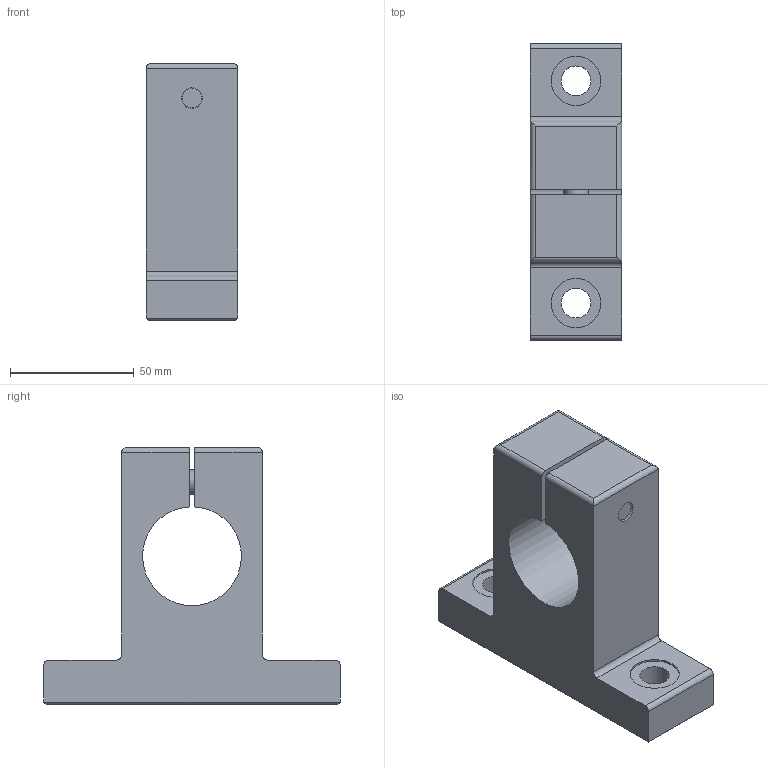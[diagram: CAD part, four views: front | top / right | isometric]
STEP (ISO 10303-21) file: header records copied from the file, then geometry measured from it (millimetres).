
FILE_DESCRIPTION((''),'2;1');
FILE_NAME('D:\製品 (図面)\カタログ用3D\シャフトブロック関連\STEP形式\SB\SB40.stp','2010-06-01T16:19:57',('Tsuchiya'),(''),'Autodesk Inventor 10','Autodesk Inventor 10','');
FILE_SCHEMA(('AUTOMOTIVE_DESIGN { 1 0 10303 214 1 1 1 1 }'));
Length unit declared in the file: millimetre
Products named in the file (1): SB40
Bounding box: 37 x 120 x 104 mm (x, y, z)
Volume: 207064.3 mm3; surface area: 37135 mm2
Topology: 1 solids, 1 shells, 52 faces, 123 edges, 79 vertices
Faces by surface type: plane 28, cylinder 17, bspline 4, cone 2, torus 1
Full cylindrical faces by diameter (mm): 10 x1, 12 x2, 16 x1, 20 x2
Entity records: 1474 total; most frequent: CARTESIAN_POINT 303, DIRECTION 238, ORIENTED_EDGE 216, EDGE_CURVE 108, AXIS2_PLACEMENT_3D 87, VERTEX_POINT 76, EDGE_LOOP 76, VECTOR 64
